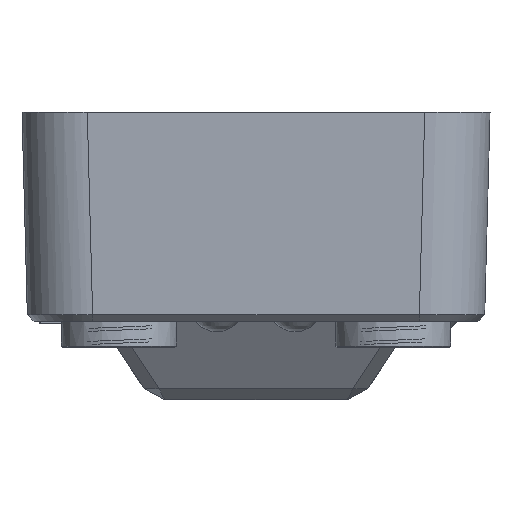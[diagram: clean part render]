
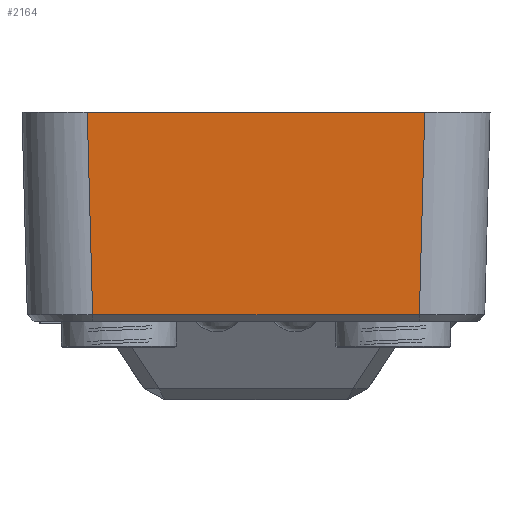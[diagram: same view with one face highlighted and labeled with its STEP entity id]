
A CAD part, left-side view. The second image highlights one B-rep face of the part: STEP entity #2164.
In plain terms, the highlighted planar face has unit normal (-1, 0, -0.026).
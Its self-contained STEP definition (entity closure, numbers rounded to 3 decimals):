
#324=PLANE('',#30973);
#2164=ADVANCED_FACE('',(#4785),#324,.T.);
#4785=FACE_OUTER_BOUND('',#6324,.T.);
#6324=EDGE_LOOP('',(#14145,#14146,#14147,#14148));
#14145=ORIENTED_EDGE('',*,*,#23221,.T.);
#14146=ORIENTED_EDGE('',*,*,#23222,.T.);
#14147=ORIENTED_EDGE('',*,*,#23223,.T.);
#14148=ORIENTED_EDGE('',*,*,#23058,.T.);
#19393=VERTEX_POINT('',#52860);
#19394=VERTEX_POINT('',#52862);
#19548=VERTEX_POINT('',#53487);
#19549=VERTEX_POINT('',#53489);
#23058=EDGE_CURVE('',#19394,#19393,#25799,.T.);
#23221=EDGE_CURVE('',#19393,#19548,#25917,.T.);
#23222=EDGE_CURVE('',#19548,#19549,#25918,.T.);
#23223=EDGE_CURVE('',#19549,#19394,#25919,.T.);
#25799=LINE('',#52861,#27715);
#25917=LINE('',#53486,#27833);
#25918=LINE('',#53488,#27834);
#25919=LINE('',#53490,#27835);
#27715=VECTOR('',#37522,1.);
#27833=VECTOR('',#37706,1.);
#27834=VECTOR('',#37707,1.);
#27835=VECTOR('',#37708,1.);
#30973=AXIS2_PLACEMENT_3D('',#53491,#37709,#37710);
#37522=DIRECTION('',(0.,1.,0.));
#37706=DIRECTION('',(0.026,-0.026,-0.999));
#37707=DIRECTION('',(0.,-1.,0.));
#37708=DIRECTION('',(-0.026,-0.026,0.999));
#37709=DIRECTION('',(-1.,0.,-0.026));
#37710=DIRECTION('',(-0.026,0.,1.));
#52860=CARTESIAN_POINT('',(76.581,30.421,16.));
#52861=CARTESIAN_POINT('',(76.581,0.,16.));
#52862=CARTESIAN_POINT('',(76.581,4.579,16.));
#53486=CARTESIAN_POINT('',(77.009,29.993,-0.327));
#53487=CARTESIAN_POINT('',(76.987,30.011,0.513));
#53488=CARTESIAN_POINT('',(76.987,17.5,0.513));
#53489=CARTESIAN_POINT('',(76.987,4.989,0.513));
#53490=CARTESIAN_POINT('',(77.009,5.007,-0.327));
#53491=CARTESIAN_POINT('',(77.,17.5,0.));
